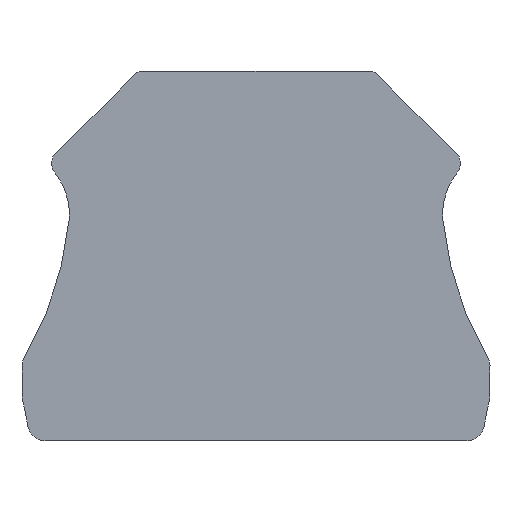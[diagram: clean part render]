
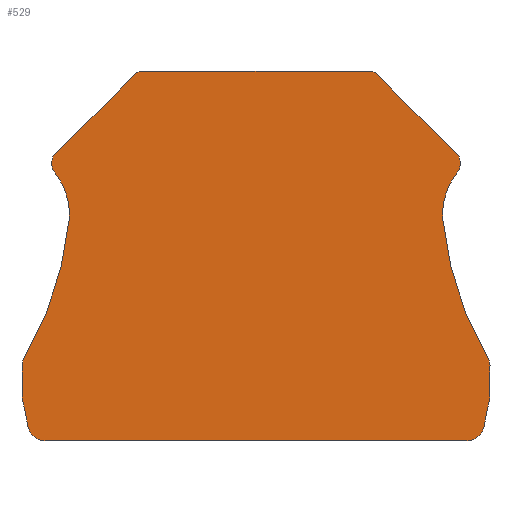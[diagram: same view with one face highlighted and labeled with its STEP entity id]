
A CAD part, left-side view. The second image highlights one B-rep face of the part: STEP entity #529.
In plain terms, the highlighted planar face has unit normal (-1, 0, 0).
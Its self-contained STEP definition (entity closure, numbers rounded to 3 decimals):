
#280=CARTESIAN_POINT('',(-2.2,0.,25.));
#281=DIRECTION('',(0.,1.,0.));
#282=DIRECTION('',(1.,0.,0.));
#283=AXIS2_PLACEMENT_3D('',#280,#282,#281);
#284=PLANE('',#283);
#285=CARTESIAN_POINT('',(-2.2,22.421,0.));
#286=VERTEX_POINT('',#285);
#287=CARTESIAN_POINT('',(-2.2,24.392,1.658));
#288=VERTEX_POINT('',#287);
#289=CARTESIAN_POINT('',(-2.2,22.421,2.));
#290=DIRECTION('',(0.,0.,-1.));
#291=DIRECTION('',(1.,0.,-0.));
#292=AXIS2_PLACEMENT_3D('',#289,#291,#290);
#293=CIRCLE('',#292,2.);
#294=EDGE_CURVE('',#286,#288,#293,.T.);
#295=ORIENTED_EDGE('E29',*,*,#294,.T.);
#296=CARTESIAN_POINT('',(-2.2,24.948,4.405));
#297=VERTEX_POINT('',#296);
#298=CARTESIAN_POINT('',(-2.2,73.655,-6.894));
#299=DIRECTION('',(0.,-0.985,0.171));
#300=DIRECTION('',(-1.,0.,0.));
#301=AXIS2_PLACEMENT_3D('',#298,#300,#299);
#302=CIRCLE('',#301,50.);
#303=EDGE_CURVE('',#288,#297,#302,.T.);
#304=ORIENTED_EDGE('E30',*,*,#303,.T.);
#305=CARTESIAN_POINT('',(-2.2,25.,4.857));
#306=VERTEX_POINT('',#305);
#307=CARTESIAN_POINT('',(-2.2,23.,4.857));
#308=DIRECTION('',(0.,0.974,-0.226));
#309=DIRECTION('',(1.,0.,0.));
#310=AXIS2_PLACEMENT_3D('',#307,#309,#308);
#311=CIRCLE('',#310,2.);
#312=EDGE_CURVE('',#297,#306,#311,.T.);
#313=ORIENTED_EDGE('E31',*,*,#312,.T.);
#314=CARTESIAN_POINT('',(-2.2,25.,8.008));
#315=VERTEX_POINT('',#314);
#316=CARTESIAN_POINT('',(-2.2,25.,4.857));
#317=DIRECTION('',(0.,0.,1.));
#318=VECTOR('',#317,3.15);
#319=LINE('',#316,#318);
#320=EDGE_CURVE('',#306,#315,#319,.T.);
#321=ORIENTED_EDGE('E32',*,*,#320,.T.);
#322=CARTESIAN_POINT('',(-2.2,24.72,9.028));
#323=VERTEX_POINT('',#322);
#324=CARTESIAN_POINT('',(-2.2,23.,8.008));
#325=DIRECTION('',(0.,1.,0.));
#326=DIRECTION('',(1.,0.,0.));
#327=AXIS2_PLACEMENT_3D('',#324,#326,#325);
#328=CIRCLE('',#327,2.);
#329=EDGE_CURVE('',#315,#323,#328,.T.);
#330=ORIENTED_EDGE('E33',*,*,#329,.T.);
#331=CARTESIAN_POINT('',(-2.2,19.977,23.583));
#332=VERTEX_POINT('',#331);
#333=CARTESIAN_POINT('',(-2.2,54.82,26.889));
#334=DIRECTION('',(0.,-0.86,-0.51));
#335=DIRECTION('',(-1.,0.,0.));
#336=AXIS2_PLACEMENT_3D('',#333,#335,#334);
#337=CIRCLE('',#336,35.);
#338=EDGE_CURVE('',#323,#332,#337,.T.);
#339=ORIENTED_EDGE('E34',*,*,#338,.T.);
#340=CARTESIAN_POINT('',(-2.2,21.211,28.259));
#341=VERTEX_POINT('',#340);
#342=CARTESIAN_POINT('',(-2.2,26.945,24.244));
#343=DIRECTION('',(0.,-0.996,-0.094));
#344=DIRECTION('',(-1.,0.,0.));
#345=AXIS2_PLACEMENT_3D('',#342,#344,#343);
#346=CIRCLE('',#345,7.);
#347=EDGE_CURVE('',#332,#341,#346,.T.);
#348=ORIENTED_EDGE('E35',*,*,#347,.T.);
#349=CARTESIAN_POINT('',(-2.2,21.619,28.842));
#350=VERTEX_POINT('',#349);
#351=CARTESIAN_POINT('',(-2.2,21.211,28.259));
#352=DIRECTION('',(0.,0.574,0.819));
#353=VECTOR('',#352,0.711);
#354=LINE('',#351,#353);
#355=EDGE_CURVE('',#341,#350,#354,.T.);
#356=ORIENTED_EDGE('E36',*,*,#355,.T.);
#357=CARTESIAN_POINT('',(-2.2,21.8,29.415));
#358=VERTEX_POINT('',#357);
#359=CARTESIAN_POINT('',(-2.2,20.8,29.415));
#360=DIRECTION('',(0.,0.819,-0.574));
#361=DIRECTION('',(1.,0.,0.));
#362=AXIS2_PLACEMENT_3D('',#359,#361,#360);
#363=CIRCLE('',#362,1.);
#364=EDGE_CURVE('',#350,#358,#363,.T.);
#365=ORIENTED_EDGE('E37',*,*,#364,.T.);
#366=CARTESIAN_POINT('',(-2.2,21.8,29.886));
#367=VERTEX_POINT('',#366);
#368=CARTESIAN_POINT('',(-2.2,21.8,29.415));
#369=DIRECTION('',(0.,0.,1.));
#370=VECTOR('',#369,0.47);
#371=LINE('',#368,#370);
#372=EDGE_CURVE('',#358,#367,#371,.T.);
#373=ORIENTED_EDGE('E38',*,*,#372,.T.);
#374=CARTESIAN_POINT('',(-2.2,21.507,30.593));
#375=VERTEX_POINT('',#374);
#376=CARTESIAN_POINT('',(-2.2,20.8,29.886));
#377=DIRECTION('',(0.,1.,0.));
#378=DIRECTION('',(1.,0.,0.));
#379=AXIS2_PLACEMENT_3D('',#376,#378,#377);
#380=CIRCLE('',#379,1.);
#381=EDGE_CURVE('',#367,#375,#380,.T.);
#382=ORIENTED_EDGE('E39',*,*,#381,.T.);
#383=CARTESIAN_POINT('',(-2.2,12.893,39.207));
#384=VERTEX_POINT('',#383);
#385=CARTESIAN_POINT('',(-2.2,21.507,30.593));
#386=DIRECTION('',(0.,-0.707,0.707));
#387=VECTOR('',#386,12.182);
#388=LINE('',#385,#387);
#389=EDGE_CURVE('',#375,#384,#388,.T.);
#390=ORIENTED_EDGE('E40',*,*,#389,.T.);
#391=CARTESIAN_POINT('',(-2.2,12.186,39.5));
#392=VERTEX_POINT('',#391);
#393=CARTESIAN_POINT('',(-2.2,12.186,38.5));
#394=DIRECTION('',(0.,0.707,0.707));
#395=DIRECTION('',(1.,0.,0.));
#396=AXIS2_PLACEMENT_3D('',#393,#395,#394);
#397=CIRCLE('',#396,1.);
#398=EDGE_CURVE('',#384,#392,#397,.T.);
#399=ORIENTED_EDGE('E41',*,*,#398,.T.);
#400=CARTESIAN_POINT('',(-2.2,-12.186,39.5));
#401=VERTEX_POINT('',#400);
#402=CARTESIAN_POINT('',(-2.2,12.186,39.5));
#403=DIRECTION('',(0.,-1.,0.));
#404=VECTOR('',#403,24.372);
#405=LINE('',#402,#404);
#406=EDGE_CURVE('',#392,#401,#405,.T.);
#407=ORIENTED_EDGE('E42',*,*,#406,.T.);
#408=CARTESIAN_POINT('',(-2.2,-12.893,39.207));
#409=VERTEX_POINT('',#408);
#410=CARTESIAN_POINT('',(-2.2,-12.186,38.5));
#411=DIRECTION('',(0.,0.,1.));
#412=DIRECTION('',(1.,0.,0.));
#413=AXIS2_PLACEMENT_3D('',#410,#412,#411);
#414=CIRCLE('',#413,1.);
#415=EDGE_CURVE('',#401,#409,#414,.T.);
#416=ORIENTED_EDGE('E43',*,*,#415,.T.);
#417=CARTESIAN_POINT('',(-2.2,-21.507,30.593));
#418=VERTEX_POINT('',#417);
#419=CARTESIAN_POINT('',(-2.2,-12.893,39.207));
#420=DIRECTION('',(0.,-0.707,-0.707));
#421=VECTOR('',#420,12.182);
#422=LINE('',#419,#421);
#423=EDGE_CURVE('',#409,#418,#422,.T.);
#424=ORIENTED_EDGE('E44',*,*,#423,.T.);
#425=CARTESIAN_POINT('',(-2.2,-21.8,29.886));
#426=VERTEX_POINT('',#425);
#427=CARTESIAN_POINT('',(-2.2,-20.8,29.886));
#428=DIRECTION('',(0.,-0.707,0.707));
#429=DIRECTION('',(1.,0.,0.));
#430=AXIS2_PLACEMENT_3D('',#427,#429,#428);
#431=CIRCLE('',#430,1.);
#432=EDGE_CURVE('',#418,#426,#431,.T.);
#433=ORIENTED_EDGE('E45',*,*,#432,.T.);
#434=CARTESIAN_POINT('',(-2.2,-21.8,29.415));
#435=VERTEX_POINT('',#434);
#436=CARTESIAN_POINT('',(-2.2,-21.8,29.886));
#437=DIRECTION('',(0.,0.,-1.));
#438=VECTOR('',#437,0.47);
#439=LINE('',#436,#438);
#440=EDGE_CURVE('',#426,#435,#439,.T.);
#441=ORIENTED_EDGE('E46',*,*,#440,.T.);
#442=CARTESIAN_POINT('',(-2.2,-21.619,28.842));
#443=VERTEX_POINT('',#442);
#444=CARTESIAN_POINT('',(-2.2,-20.8,29.415));
#445=DIRECTION('',(0.,-1.,0.));
#446=DIRECTION('',(1.,0.,0.));
#447=AXIS2_PLACEMENT_3D('',#444,#446,#445);
#448=CIRCLE('',#447,1.);
#449=EDGE_CURVE('',#435,#443,#448,.T.);
#450=ORIENTED_EDGE('E47',*,*,#449,.T.);
#451=CARTESIAN_POINT('',(-2.2,-21.211,28.259));
#452=VERTEX_POINT('',#451);
#453=CARTESIAN_POINT('',(-2.2,-21.619,28.842));
#454=DIRECTION('',(0.,0.574,-0.819));
#455=VECTOR('',#454,0.711);
#456=LINE('',#453,#455);
#457=EDGE_CURVE('',#443,#452,#456,.T.);
#458=ORIENTED_EDGE('E48',*,*,#457,.T.);
#459=CARTESIAN_POINT('',(-2.2,-19.977,23.583));
#460=VERTEX_POINT('',#459);
#461=CARTESIAN_POINT('',(-2.2,-26.945,24.244));
#462=DIRECTION('',(0.,0.819,0.574));
#463=DIRECTION('',(-1.,0.,0.));
#464=AXIS2_PLACEMENT_3D('',#461,#463,#462);
#465=CIRCLE('',#464,7.);
#466=EDGE_CURVE('',#452,#460,#465,.T.);
#467=ORIENTED_EDGE('E49',*,*,#466,.T.);
#468=CARTESIAN_POINT('',(-2.2,-24.72,9.028));
#469=VERTEX_POINT('',#468);
#470=CARTESIAN_POINT('',(-2.2,-54.82,26.889));
#471=DIRECTION('',(0.,0.996,-0.094));
#472=DIRECTION('',(-1.,0.,0.));
#473=AXIS2_PLACEMENT_3D('',#470,#472,#471);
#474=CIRCLE('',#473,35.);
#475=EDGE_CURVE('',#460,#469,#474,.T.);
#476=ORIENTED_EDGE('E50',*,*,#475,.T.);
#477=CARTESIAN_POINT('',(-2.2,-25.,8.008));
#478=VERTEX_POINT('',#477);
#479=CARTESIAN_POINT('',(-2.2,-23.,8.008));
#480=DIRECTION('',(0.,-0.86,0.51));
#481=DIRECTION('',(1.,0.,0.));
#482=AXIS2_PLACEMENT_3D('',#479,#481,#480);
#483=CIRCLE('',#482,2.);
#484=EDGE_CURVE('',#469,#478,#483,.T.);
#485=ORIENTED_EDGE('E51',*,*,#484,.T.);
#486=CARTESIAN_POINT('',(-2.2,-25.,4.857));
#487=VERTEX_POINT('',#486);
#488=CARTESIAN_POINT('',(-2.2,-25.,8.008));
#489=DIRECTION('',(0.,0.,-1.));
#490=VECTOR('',#489,3.15);
#491=LINE('',#488,#490);
#492=EDGE_CURVE('',#478,#487,#491,.T.);
#493=ORIENTED_EDGE('E52',*,*,#492,.T.);
#494=CARTESIAN_POINT('',(-2.2,-24.948,4.405));
#495=VERTEX_POINT('',#494);
#496=CARTESIAN_POINT('',(-2.2,-23.,4.857));
#497=DIRECTION('',(0.,-1.,0.));
#498=DIRECTION('',(1.,0.,0.));
#499=AXIS2_PLACEMENT_3D('',#496,#498,#497);
#500=CIRCLE('',#499,2.);
#501=EDGE_CURVE('',#487,#495,#500,.T.);
#502=ORIENTED_EDGE('E53',*,*,#501,.T.);
#503=CARTESIAN_POINT('',(-2.2,-24.392,1.658));
#504=VERTEX_POINT('',#503);
#505=CARTESIAN_POINT('',(-2.2,-73.655,-6.894));
#506=DIRECTION('',(0.,0.974,0.226));
#507=DIRECTION('',(-1.,0.,0.));
#508=AXIS2_PLACEMENT_3D('',#505,#507,#506);
#509=CIRCLE('',#508,50.);
#510=EDGE_CURVE('',#495,#504,#509,.T.);
#511=ORIENTED_EDGE('E54',*,*,#510,.T.);
#512=CARTESIAN_POINT('',(-2.2,-22.421,0.));
#513=VERTEX_POINT('',#512);
#514=CARTESIAN_POINT('',(-2.2,-22.421,2.));
#515=DIRECTION('',(0.,-0.985,-0.171));
#516=DIRECTION('',(1.,0.,0.));
#517=AXIS2_PLACEMENT_3D('',#514,#516,#515);
#518=CIRCLE('',#517,2.);
#519=EDGE_CURVE('',#504,#513,#518,.T.);
#520=ORIENTED_EDGE('E55',*,*,#519,.T.);
#521=CARTESIAN_POINT('',(-2.2,-22.421,0.));
#522=DIRECTION('',(0.,1.,0.));
#523=VECTOR('',#522,44.842);
#524=LINE('',#521,#523);
#525=EDGE_CURVE('',#513,#286,#524,.T.);
#526=ORIENTED_EDGE('E56',*,*,#525,.T.);
#527=EDGE_LOOP('',(#295,#304,#313,#321,#330,#339,#348,#356,#365,#373,#382,#390,#399,#407,#416,#424,#433,#441,#450,#458,#467,#476,#485,#493,#502,#511,#520,#526));
#528=FACE_OUTER_BOUND('',#527,.F.);
#529=ADVANCED_FACE('F2',(#528),#284,.F.);
